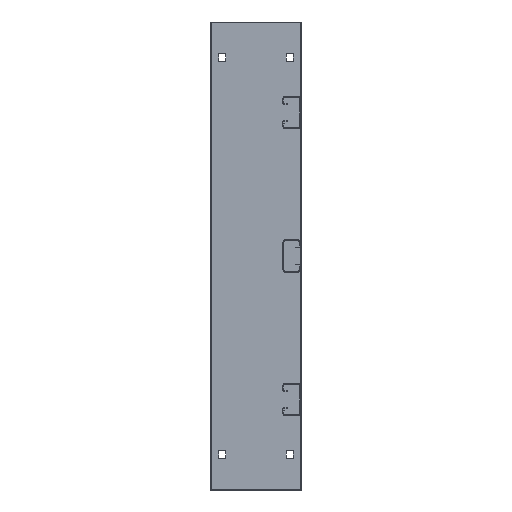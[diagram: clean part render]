
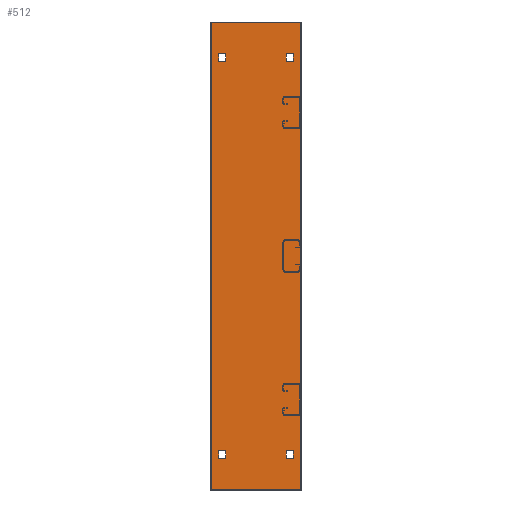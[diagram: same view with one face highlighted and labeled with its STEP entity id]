
A CAD part, left-side view. The second image highlights one B-rep face of the part: STEP entity #512.
In plain terms, the highlighted planar face has unit normal (-1, 0, 0).
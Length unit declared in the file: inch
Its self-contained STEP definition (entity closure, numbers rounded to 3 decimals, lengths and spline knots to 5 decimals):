
#25=DIRECTION('',(0.,1.,0.));
#26=VECTOR('',#25,5.08);
#27=CARTESIAN_POINT('',(-0.09,0.,0.));
#28=LINE('',#27,#26);
#41=DIRECTION('',(0.,1.,0.));
#42=VECTOR('',#41,5.08);
#43=CARTESIAN_POINT('',(-0.09,0.,-25.856));
#44=LINE('',#43,#42);
#49=DIRECTION('',(0.,-1.,0.));
#50=VECTOR('',#49,0.41);
#51=CARTESIAN_POINT('',(-0.09,0.8825,-1.755));
#52=LINE('',#51,#50);
#53=DIRECTION('',(0.,0.,1.));
#54=VECTOR('',#53,0.41);
#55=CARTESIAN_POINT('',(-0.09,0.8825,-2.165));
#56=LINE('',#55,#54);
#57=DIRECTION('',(0.,1.,0.));
#58=VECTOR('',#57,0.41);
#59=CARTESIAN_POINT('',(-0.09,0.4725,-2.165));
#60=LINE('',#59,#58);
#61=DIRECTION('',(0.,0.,-1.));
#62=VECTOR('',#61,0.41);
#63=CARTESIAN_POINT('',(-0.09,0.4725,-1.755));
#64=LINE('',#63,#62);
#65=DIRECTION('',(0.,0.,-1.));
#66=VECTOR('',#65,0.41);
#67=CARTESIAN_POINT('',(-0.09,4.1975,-1.755));
#68=LINE('',#67,#66);
#69=DIRECTION('',(0.,-1.,0.));
#70=VECTOR('',#69,0.41);
#71=CARTESIAN_POINT('',(-0.09,4.6075,-1.755));
#72=LINE('',#71,#70);
#73=DIRECTION('',(0.,0.,1.));
#74=VECTOR('',#73,0.41);
#75=CARTESIAN_POINT('',(-0.09,4.6075,-2.165));
#76=LINE('',#75,#74);
#77=DIRECTION('',(0.,1.,0.));
#78=VECTOR('',#77,0.41);
#79=CARTESIAN_POINT('',(-0.09,4.1975,-2.165));
#80=LINE('',#79,#78);
#81=DIRECTION('',(0.,0.,-1.));
#82=VECTOR('',#81,25.856);
#83=CARTESIAN_POINT('',(-0.09,0.,0.));
#84=LINE('',#83,#82);
#85=DIRECTION('',(0.,0.,1.));
#86=VECTOR('',#85,25.856);
#87=CARTESIAN_POINT('',(-0.09,5.08,-25.856));
#88=LINE('',#87,#86);
#89=DIRECTION('',(0.,-1.,0.));
#90=VECTOR('',#89,0.41);
#91=CARTESIAN_POINT('',(-0.09,0.8825,-24.101));
#92=LINE('',#91,#90);
#93=DIRECTION('',(0.,0.,1.));
#94=VECTOR('',#93,0.41);
#95=CARTESIAN_POINT('',(-0.09,0.4725,-24.101));
#96=LINE('',#95,#94);
#97=DIRECTION('',(0.,1.,0.));
#98=VECTOR('',#97,0.41);
#99=CARTESIAN_POINT('',(-0.09,0.4725,-23.691));
#100=LINE('',#99,#98);
#101=DIRECTION('',(0.,0.,-1.));
#102=VECTOR('',#101,0.41);
#103=CARTESIAN_POINT('',(-0.09,0.8825,-23.691));
#104=LINE('',#103,#102);
#105=DIRECTION('',(0.,0.,1.));
#106=VECTOR('',#105,0.41);
#107=CARTESIAN_POINT('',(-0.09,4.1975,-24.101));
#108=LINE('',#107,#106);
#109=DIRECTION('',(0.,1.,0.));
#110=VECTOR('',#109,0.41);
#111=CARTESIAN_POINT('',(-0.09,4.1975,-23.691));
#112=LINE('',#111,#110);
#113=DIRECTION('',(0.,0.,-1.));
#114=VECTOR('',#113,0.41);
#115=CARTESIAN_POINT('',(-0.09,4.6075,-23.691));
#116=LINE('',#115,#114);
#117=DIRECTION('',(0.,-1.,0.));
#118=VECTOR('',#117,0.41);
#119=CARTESIAN_POINT('',(-0.09,4.6075,-24.101));
#120=LINE('',#119,#118);
#301=CARTESIAN_POINT('',(-0.09,0.,0.));
#302=VERTEX_POINT('',#301);
#303=CARTESIAN_POINT('',(-0.09,5.08,0.));
#304=VERTEX_POINT('',#303);
#317=CARTESIAN_POINT('',(-0.09,0.,-25.856));
#318=VERTEX_POINT('',#317);
#319=CARTESIAN_POINT('',(-0.09,5.08,-25.856));
#320=VERTEX_POINT('',#319);
#337=CARTESIAN_POINT('',(-0.09,0.8825,-1.755));
#338=CARTESIAN_POINT('',(-0.09,0.4725,-1.755));
#339=VERTEX_POINT('',#337);
#340=VERTEX_POINT('',#338);
#341=CARTESIAN_POINT('',(-0.09,0.4725,-2.165));
#342=VERTEX_POINT('',#341);
#343=CARTESIAN_POINT('',(-0.09,0.8825,-2.165));
#344=VERTEX_POINT('',#343);
#345=CARTESIAN_POINT('',(-0.09,4.1975,-1.755));
#346=CARTESIAN_POINT('',(-0.09,4.1975,-2.165));
#347=VERTEX_POINT('',#345);
#348=VERTEX_POINT('',#346);
#349=CARTESIAN_POINT('',(-0.09,4.6075,-2.165));
#350=VERTEX_POINT('',#349);
#351=CARTESIAN_POINT('',(-0.09,4.6075,-1.755));
#352=VERTEX_POINT('',#351);
#354=CARTESIAN_POINT('',(-0.09,0.8825,-24.101));
#356=VERTEX_POINT('',#354);
#358=CARTESIAN_POINT('',(-0.09,0.4725,-24.101));
#360=VERTEX_POINT('',#358);
#362=CARTESIAN_POINT('',(-0.09,0.4725,-23.691));
#364=VERTEX_POINT('',#362);
#366=CARTESIAN_POINT('',(-0.09,0.8825,-23.691));
#368=VERTEX_POINT('',#366);
#370=CARTESIAN_POINT('',(-0.09,4.1975,-24.101));
#372=VERTEX_POINT('',#370);
#374=CARTESIAN_POINT('',(-0.09,4.1975,-23.691));
#376=VERTEX_POINT('',#374);
#378=CARTESIAN_POINT('',(-0.09,4.6075,-23.691));
#380=VERTEX_POINT('',#378);
#382=CARTESIAN_POINT('',(-0.09,4.6075,-24.101));
#384=VERTEX_POINT('',#382);
#460=CARTESIAN_POINT('',(-0.09,0.,0.));
#461=DIRECTION('',(-1.,0.,0.));
#462=DIRECTION('',(0.,1.,0.));
#463=AXIS2_PLACEMENT_3D('',#460,#461,#462);
#464=PLANE('',#463);
#466=ORIENTED_EDGE('',*,*,#465,.T.);
#467=ORIENTED_EDGE('',*,*,#432,.T.);
#468=ORIENTED_EDGE('',*,*,#452,.T.);
#469=ORIENTED_EDGE('',*,*,#402,.F.);
#470=EDGE_LOOP('',(#466,#467,#468,#469));
#471=FACE_OUTER_BOUND('',#470,.F.);
#473=ORIENTED_EDGE('',*,*,#472,.F.);
#475=ORIENTED_EDGE('',*,*,#474,.F.);
#477=ORIENTED_EDGE('',*,*,#476,.F.);
#479=ORIENTED_EDGE('',*,*,#478,.F.);
#480=EDGE_LOOP('',(#473,#475,#477,#479));
#481=FACE_BOUND('',#480,.F.);
#483=ORIENTED_EDGE('',*,*,#482,.F.);
#485=ORIENTED_EDGE('',*,*,#484,.F.);
#487=ORIENTED_EDGE('',*,*,#486,.F.);
#489=ORIENTED_EDGE('',*,*,#488,.F.);
#490=EDGE_LOOP('',(#483,#485,#487,#489));
#491=FACE_BOUND('',#490,.F.);
#493=ORIENTED_EDGE('',*,*,#492,.T.);
#495=ORIENTED_EDGE('',*,*,#494,.T.);
#497=ORIENTED_EDGE('',*,*,#496,.T.);
#499=ORIENTED_EDGE('',*,*,#498,.T.);
#500=EDGE_LOOP('',(#493,#495,#497,#499));
#501=FACE_BOUND('',#500,.F.);
#503=ORIENTED_EDGE('',*,*,#502,.T.);
#505=ORIENTED_EDGE('',*,*,#504,.T.);
#507=ORIENTED_EDGE('',*,*,#506,.T.);
#509=ORIENTED_EDGE('',*,*,#508,.T.);
#510=EDGE_LOOP('',(#503,#505,#507,#509));
#511=FACE_BOUND('',#510,.F.);
#512=ADVANCED_FACE('',(#471,#481,#491,#501,#511),#464,.T.);
#402=EDGE_CURVE('',#302,#304,#28,.T.);
#432=EDGE_CURVE('',#318,#320,#44,.T.);
#452=EDGE_CURVE('',#320,#304,#88,.T.);
#465=EDGE_CURVE('',#302,#318,#84,.T.);
#472=EDGE_CURVE('',#339,#340,#52,.T.);
#474=EDGE_CURVE('',#344,#339,#56,.T.);
#476=EDGE_CURVE('',#342,#344,#60,.T.);
#478=EDGE_CURVE('',#340,#342,#64,.T.);
#482=EDGE_CURVE('',#347,#348,#68,.T.);
#484=EDGE_CURVE('',#352,#347,#72,.T.);
#486=EDGE_CURVE('',#350,#352,#76,.T.);
#488=EDGE_CURVE('',#348,#350,#80,.T.);
#492=EDGE_CURVE('',#356,#360,#92,.T.);
#494=EDGE_CURVE('',#360,#364,#96,.T.);
#496=EDGE_CURVE('',#364,#368,#100,.T.);
#498=EDGE_CURVE('',#368,#356,#104,.T.);
#502=EDGE_CURVE('',#372,#376,#108,.T.);
#504=EDGE_CURVE('',#376,#380,#112,.T.);
#506=EDGE_CURVE('',#380,#384,#116,.T.);
#508=EDGE_CURVE('',#384,#372,#120,.T.);
